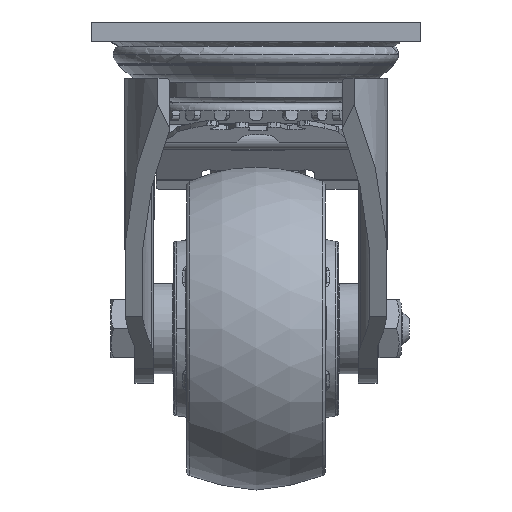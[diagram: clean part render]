
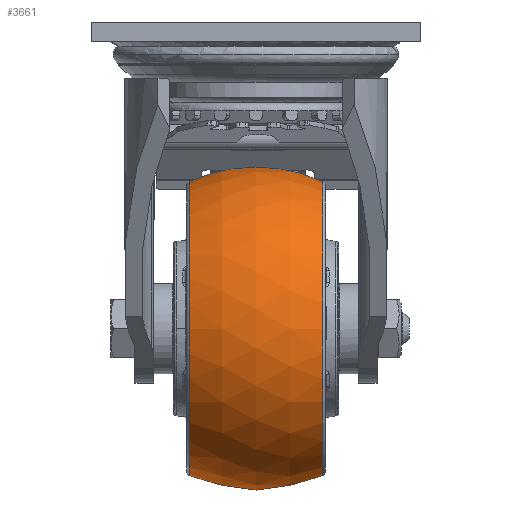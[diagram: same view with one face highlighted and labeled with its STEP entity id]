
A CAD part, left-side view. The second image highlights one B-rep face of the part: STEP entity #3661.
In plain terms, the highlighted spherical face has radius 50 mm.
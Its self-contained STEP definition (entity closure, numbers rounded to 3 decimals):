
#140=SPHERICAL_SURFACE('',#24171,50.);
#1232=FACE_BOUND('',#6403,.T.);
#1233=FACE_BOUND('',#6404,.T.);
#1862=CIRCLE('',#24169,45.539);
#1863=CIRCLE('',#24170,45.539);
#3661=ADVANCED_FACE('',(#1232,#1233),#140,.T.);
#6403=EDGE_LOOP('',(#15491));
#6404=EDGE_LOOP('',(#15492));
#15491=ORIENTED_EDGE('',*,*,#21250,.T.);
#15492=ORIENTED_EDGE('',*,*,#21251,.T.);
#18099=VERTEX_POINT('',#48534);
#18100=VERTEX_POINT('',#48536);
#21250=EDGE_CURVE('',#18099,#18099,#1862,.T.);
#21251=EDGE_CURVE('',#18100,#18100,#1863,.T.);
#24169=AXIS2_PLACEMENT_3D('',#48533,#29056,#29057);
#24170=AXIS2_PLACEMENT_3D('',#48535,#29058,#29059);
#24171=AXIS2_PLACEMENT_3D('',#48537,#29060,#29061);
#29056=DIRECTION('',(0.,1.,0.));
#29057=DIRECTION('',(0.,0.,1.));
#29058=DIRECTION('',(0.,-1.,0.));
#29059=DIRECTION('',(0.,0.,-1.));
#29060=DIRECTION('',(0.,1.,0.));
#29061=DIRECTION('',(1.,0.,0.));
#48533=CARTESIAN_POINT('',(34.,-20.644,-95.));
#48534=CARTESIAN_POINT('',(34.,-20.644,-49.461));
#48535=CARTESIAN_POINT('',(34.,20.644,-95.));
#48536=CARTESIAN_POINT('',(34.,20.644,-140.539));
#48537=CARTESIAN_POINT('',(34.,0.,-95.));
